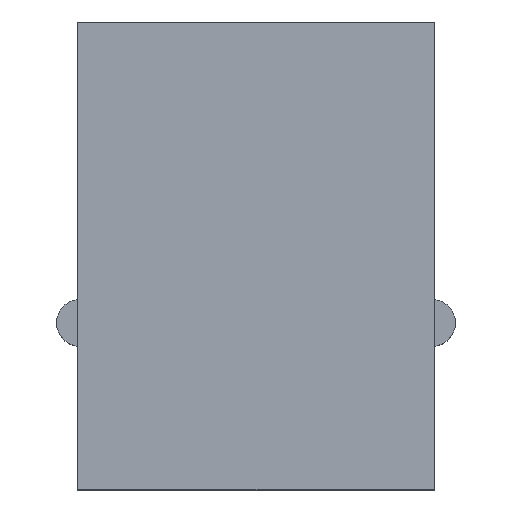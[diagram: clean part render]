
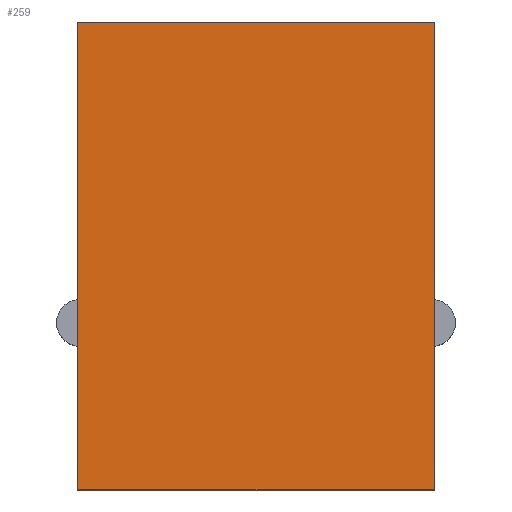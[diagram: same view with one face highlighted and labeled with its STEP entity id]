
A CAD part, top view. The second image highlights one B-rep face of the part: STEP entity #259.
In plain terms, the highlighted planar face has unit normal (0, 0, 1).
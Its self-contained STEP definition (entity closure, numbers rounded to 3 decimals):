
#70 = VERTEX_POINT('',#71);
#71 = CARTESIAN_POINT('',(-6.1,-16.,11.));
#78 = PLANE('',#79);
#79 = AXIS2_PLACEMENT_3D('',#80,#81,#82);
#80 = CARTESIAN_POINT('',(-6.1,-16.,0.7));
#81 = DIRECTION('',(1.,0.,0.));
#82 = DIRECTION('',(0.,0.,1.));
#90 = PLANE('',#91);
#91 = AXIS2_PLACEMENT_3D('',#92,#93,#94);
#92 = CARTESIAN_POINT('',(-6.1,-16.,0.7));
#93 = DIRECTION('',(0.,1.,0.));
#94 = DIRECTION('',(0.,0.,1.));
#131 = VERTEX_POINT('',#132);
#132 = CARTESIAN_POINT('',(-6.1,0.,11.));
#146 = PLANE('',#147);
#147 = AXIS2_PLACEMENT_3D('',#148,#149,#150);
#148 = CARTESIAN_POINT('',(-6.1,0.,0.7));
#149 = DIRECTION('',(0.,1.,0.));
#150 = DIRECTION('',(0.,0.,1.));
#158 = EDGE_CURVE('',#70,#131,#159,.T.);
#159 = SURFACE_CURVE('',#160,(#164,#171),.PCURVE_S1.);
#160 = LINE('',#161,#162);
#161 = CARTESIAN_POINT('',(-6.1,-16.,11.));
#162 = VECTOR('',#163,1.);
#163 = DIRECTION('',(0.,1.,0.));
#164 = PCURVE('',#78,#165);
#165 = DEFINITIONAL_REPRESENTATION('',(#166),#170);
#166 = LINE('',#167,#168);
#167 = CARTESIAN_POINT('',(10.3,0.));
#168 = VECTOR('',#169,1.);
#169 = DIRECTION('',(0.,-1.));
#170 = ( GEOMETRIC_REPRESENTATION_CONTEXT(2) 
PARAMETRIC_REPRESENTATION_CONTEXT() REPRESENTATION_CONTEXT('2D SPACE',''
  ) );
#171 = PCURVE('',#172,#177);
#172 = PLANE('',#173);
#173 = AXIS2_PLACEMENT_3D('',#174,#175,#176);
#174 = CARTESIAN_POINT('',(-6.1,-16.,11.));
#175 = DIRECTION('',(0.,0.,1.));
#176 = DIRECTION('',(1.,0.,0.));
#177 = DEFINITIONAL_REPRESENTATION('',(#178),#182);
#178 = LINE('',#179,#180);
#179 = CARTESIAN_POINT('',(0.,0.));
#180 = VECTOR('',#181,1.);
#181 = DIRECTION('',(0.,1.));
#182 = ( GEOMETRIC_REPRESENTATION_CONTEXT(2) 
PARAMETRIC_REPRESENTATION_CONTEXT() REPRESENTATION_CONTEXT('2D SPACE',''
  ) );
#211 = EDGE_CURVE('',#70,#212,#214,.T.);
#212 = VERTEX_POINT('',#213);
#213 = CARTESIAN_POINT('',(6.1,-16.,11.));
#214 = SURFACE_CURVE('',#215,(#219,#226),.PCURVE_S1.);
#215 = LINE('',#216,#217);
#216 = CARTESIAN_POINT('',(-6.1,-16.,11.));
#217 = VECTOR('',#218,1.);
#218 = DIRECTION('',(1.,0.,0.));
#219 = PCURVE('',#90,#220);
#220 = DEFINITIONAL_REPRESENTATION('',(#221),#225);
#221 = LINE('',#222,#223);
#222 = CARTESIAN_POINT('',(10.3,0.));
#223 = VECTOR('',#224,1.);
#224 = DIRECTION('',(0.,1.));
#225 = ( GEOMETRIC_REPRESENTATION_CONTEXT(2) 
PARAMETRIC_REPRESENTATION_CONTEXT() REPRESENTATION_CONTEXT('2D SPACE',''
  ) );
#226 = PCURVE('',#172,#227);
#227 = DEFINITIONAL_REPRESENTATION('',(#228),#232);
#228 = LINE('',#229,#230);
#229 = CARTESIAN_POINT('',(0.,0.));
#230 = VECTOR('',#231,1.);
#231 = DIRECTION('',(1.,0.));
#232 = ( GEOMETRIC_REPRESENTATION_CONTEXT(2) 
PARAMETRIC_REPRESENTATION_CONTEXT() REPRESENTATION_CONTEXT('2D SPACE',''
  ) );
#248 = PLANE('',#249);
#249 = AXIS2_PLACEMENT_3D('',#250,#251,#252);
#250 = CARTESIAN_POINT('',(6.1,-16.,0.7));
#251 = DIRECTION('',(1.,0.,0.));
#252 = DIRECTION('',(0.,0.,1.));
#259 = ADVANCED_FACE('',(#260),#172,.T.);
#260 = FACE_BOUND('',#261,.T.);
#261 = EDGE_LOOP('',(#262,#263,#264,#287));
#262 = ORIENTED_EDGE('',*,*,#158,.F.);
#263 = ORIENTED_EDGE('',*,*,#211,.T.);
#264 = ORIENTED_EDGE('',*,*,#265,.T.);
#265 = EDGE_CURVE('',#212,#266,#268,.T.);
#266 = VERTEX_POINT('',#267);
#267 = CARTESIAN_POINT('',(6.1,0.,11.));
#268 = SURFACE_CURVE('',#269,(#273,#280),.PCURVE_S1.);
#269 = LINE('',#270,#271);
#270 = CARTESIAN_POINT('',(6.1,-16.,11.));
#271 = VECTOR('',#272,1.);
#272 = DIRECTION('',(0.,1.,0.));
#273 = PCURVE('',#172,#274);
#274 = DEFINITIONAL_REPRESENTATION('',(#275),#279);
#275 = LINE('',#276,#277);
#276 = CARTESIAN_POINT('',(12.2,0.));
#277 = VECTOR('',#278,1.);
#278 = DIRECTION('',(0.,1.));
#279 = ( GEOMETRIC_REPRESENTATION_CONTEXT(2) 
PARAMETRIC_REPRESENTATION_CONTEXT() REPRESENTATION_CONTEXT('2D SPACE',''
  ) );
#280 = PCURVE('',#248,#281);
#281 = DEFINITIONAL_REPRESENTATION('',(#282),#286);
#282 = LINE('',#283,#284);
#283 = CARTESIAN_POINT('',(10.3,0.));
#284 = VECTOR('',#285,1.);
#285 = DIRECTION('',(0.,-1.));
#286 = ( GEOMETRIC_REPRESENTATION_CONTEXT(2) 
PARAMETRIC_REPRESENTATION_CONTEXT() REPRESENTATION_CONTEXT('2D SPACE',''
  ) );
#287 = ORIENTED_EDGE('',*,*,#288,.F.);
#288 = EDGE_CURVE('',#131,#266,#289,.T.);
#289 = SURFACE_CURVE('',#290,(#294,#301),.PCURVE_S1.);
#290 = LINE('',#291,#292);
#291 = CARTESIAN_POINT('',(-6.1,0.,11.));
#292 = VECTOR('',#293,1.);
#293 = DIRECTION('',(1.,0.,0.));
#294 = PCURVE('',#172,#295);
#295 = DEFINITIONAL_REPRESENTATION('',(#296),#300);
#296 = LINE('',#297,#298);
#297 = CARTESIAN_POINT('',(0.,16.));
#298 = VECTOR('',#299,1.);
#299 = DIRECTION('',(1.,0.));
#300 = ( GEOMETRIC_REPRESENTATION_CONTEXT(2) 
PARAMETRIC_REPRESENTATION_CONTEXT() REPRESENTATION_CONTEXT('2D SPACE',''
  ) );
#301 = PCURVE('',#146,#302);
#302 = DEFINITIONAL_REPRESENTATION('',(#303),#307);
#303 = LINE('',#304,#305);
#304 = CARTESIAN_POINT('',(10.3,0.));
#305 = VECTOR('',#306,1.);
#306 = DIRECTION('',(0.,1.));
#307 = ( GEOMETRIC_REPRESENTATION_CONTEXT(2) 
PARAMETRIC_REPRESENTATION_CONTEXT() REPRESENTATION_CONTEXT('2D SPACE',''
  ) );
